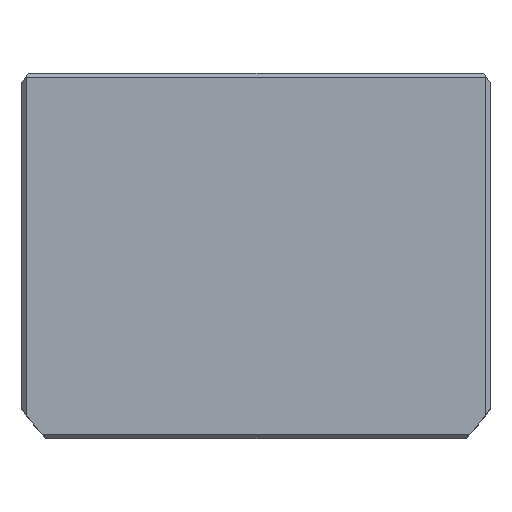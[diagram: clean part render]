
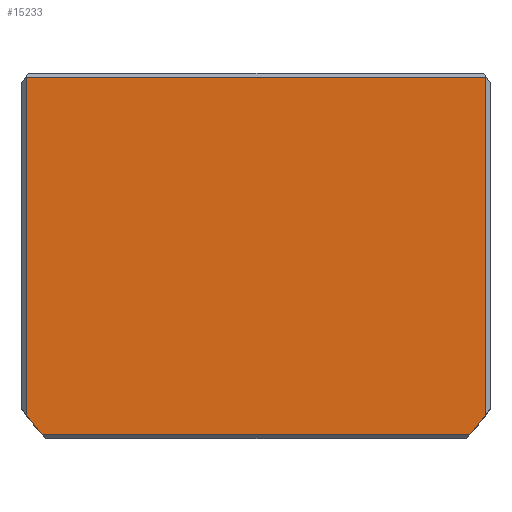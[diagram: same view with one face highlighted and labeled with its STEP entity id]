
A CAD part, top view. The second image highlights one B-rep face of the part: STEP entity #15233.
In plain terms, the highlighted planar face has unit normal (0, 0, 1) as drawn and (0, 0, -1) by its records, which use the part's own axes.
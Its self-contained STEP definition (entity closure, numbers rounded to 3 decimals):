
#62 = VERTEX_POINT ( 'NONE', #13994 ) ;
#162 = AXIS2_PLACEMENT_3D ( 'NONE', #18581, #7838, #20376 ) ;
#707 = DIRECTION ( 'NONE',  ( 0., 1., 0. ) ) ;
#745 = CIRCLE ( 'NONE', #5726, 69.5 ) ;
#1105 = VERTEX_POINT ( 'NONE', #22170 ) ;
#1755 = CARTESIAN_POINT ( 'NONE',  ( 56., 38.661, 0. ) ) ;
#2503 = ORIENTED_EDGE ( 'NONE', *, *, #4059, .T. ) ;
#2661 = CARTESIAN_POINT ( 'NONE',  ( 0., 43.5, 0. ) ) ;
#3286 = LINE ( 'NONE', #2661, #12285 ) ;
#3876 = EDGE_CURVE ( 'NONE', #6241, #1105, #22955, .T. ) ;
#4059 = EDGE_CURVE ( 'NONE', #21659, #62, #3286, .T. ) ;
#4223 = DIRECTION ( 'NONE',  ( -1., 0., 0. ) ) ;
#4307 = ORIENTED_EDGE ( 'NONE', *, *, #5354, .F. ) ;
#4447 = CARTESIAN_POINT ( 'NONE',  ( 56., -43.5, 0. ) ) ;
#4460 = DIRECTION ( 'NONE',  ( 1., 0., 0. ) ) ;
#5354 = EDGE_CURVE ( 'NONE', #21097, #62, #745, .T. ) ;
#5726 = AXIS2_PLACEMENT_3D ( 'NONE', #20050, #9312, #21841 ) ;
#6026 = CARTESIAN_POINT ( 'NONE',  ( -56., 38.661, 0. ) ) ;
#6035 = CARTESIAN_POINT ( 'NONE',  ( 0., -43.5, 0. ) ) ;
#6241 = VERTEX_POINT ( 'NONE', #4447 ) ;
#6680 = CIRCLE ( 'NONE', #162, 69.5 ) ;
#7645 = CARTESIAN_POINT ( 'NONE',  ( 56., 0., 0. ) ) ;
#7838 = DIRECTION ( 'NONE',  ( 0., 0., 1. ) ) ;
#8041 = FACE_OUTER_BOUND ( 'NONE', #12760, .T. ) ;
#8363 = ORIENTED_EDGE ( 'NONE', *, *, #3876, .T. ) ;
#9262 = VECTOR ( 'NONE', #707, 1000. ) ;
#9312 = DIRECTION ( 'NONE',  ( 0., 0., 1. ) ) ;
#9444 = LINE ( 'NONE', #7645, #14183 ) ;
#9816 = EDGE_CURVE ( 'NONE', #21659, #10737, #6680, .T. ) ;
#10737 = VERTEX_POINT ( 'NONE', #6026 ) ;
#10942 = DIRECTION ( 'NONE',  ( 1., 0., 0. ) ) ;
#11584 = ORIENTED_EDGE ( 'NONE', *, *, #20291, .T. ) ;
#12285 = VECTOR ( 'NONE', #4460, 1000. ) ;
#12760 = EDGE_LOOP ( 'NONE', ( #4307, #20500, #8363, #11584, #13496, #2503 ) ) ;
#12881 = LINE ( 'NONE', #21251, #9262 ) ;
#13422 = VECTOR ( 'NONE', #4223, 1000. ) ;
#13496 = ORIENTED_EDGE ( 'NONE', *, *, #9816, .F. ) ;
#13994 = CARTESIAN_POINT ( 'NONE',  ( 52.098, 43.5, 0. ) ) ;
#14183 = VECTOR ( 'NONE', #21993, 1000. ) ;
#15233 = ADVANCED_FACE ( 'NONE', ( #8041 ), #21586, .F. ) ;
#15425 = AXIS2_PLACEMENT_3D ( 'NONE', #19870, #21667, #10942 ) ;
#15761 = EDGE_CURVE ( 'NONE', #21097, #6241, #9444, .T. ) ;
#18581 = CARTESIAN_POINT ( 'NONE',  ( 0., -2.5, 0. ) ) ;
#18952 = CARTESIAN_POINT ( 'NONE',  ( -52.098, 43.5, 0. ) ) ;
#19870 = CARTESIAN_POINT ( 'NONE',  ( 0., 0., 0. ) ) ;
#20050 = CARTESIAN_POINT ( 'NONE',  ( 0., -2.5, 0. ) ) ;
#20291 = EDGE_CURVE ( 'NONE', #1105, #10737, #12881, .T. ) ;
#20376 = DIRECTION ( 'NONE',  ( 1., 0., 0. ) ) ;
#20500 = ORIENTED_EDGE ( 'NONE', *, *, #15761, .T. ) ;
#21097 = VERTEX_POINT ( 'NONE', #1755 ) ;
#21251 = CARTESIAN_POINT ( 'NONE',  ( -56., 0., 0. ) ) ;
#21586 = PLANE ( 'NONE',  #15425 ) ;
#21659 = VERTEX_POINT ( 'NONE', #18952 ) ;
#21667 = DIRECTION ( 'NONE',  ( 0., 0., 1. ) ) ;
#21841 = DIRECTION ( 'NONE',  ( 1., 0., 0. ) ) ;
#21993 = DIRECTION ( 'NONE',  ( 0., -1., 0. ) ) ;
#22170 = CARTESIAN_POINT ( 'NONE',  ( -56., -43.5, 0. ) ) ;
#22955 = LINE ( 'NONE', #6035, #13422 ) ;
